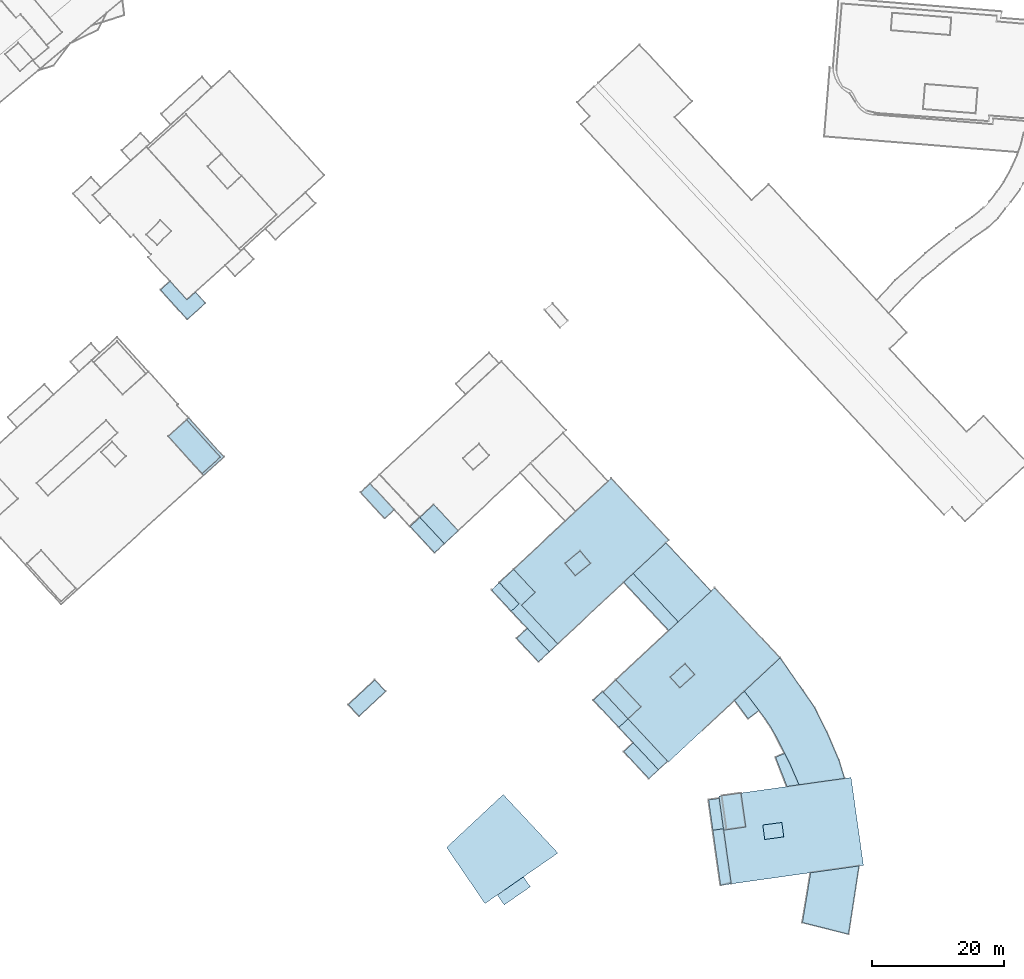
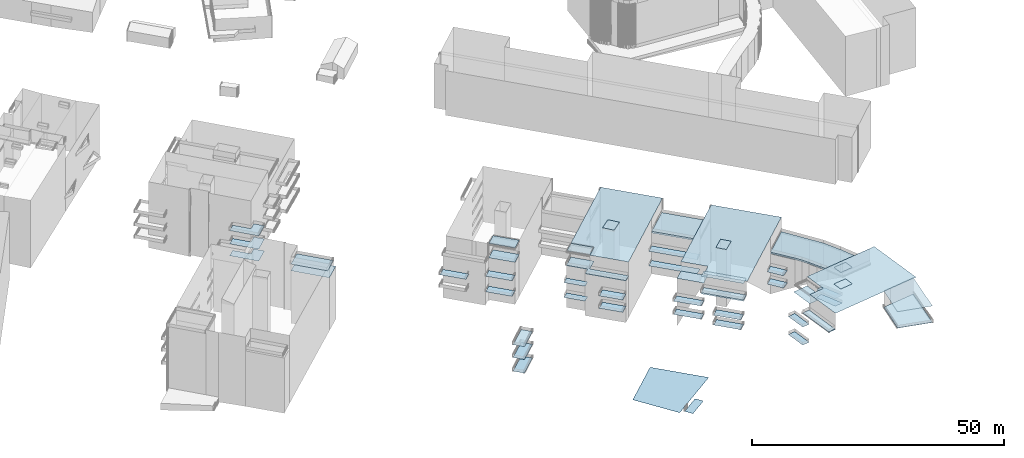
# Not in any storey, part 127 of 136: 105 roofs.
"""IFC4 building model written with IfcOpenShell, lengths in metres."""

from ifc_helpers import new_model, entity, si_unit, converted_unit, frame, origin, place, context, subcontext, project, spatial, face_set, surface_model, element, save


model = new_model("IFC4")

# Units and contexts
model_context = context("Model", 3, precision=1e-05, world=origin())
body_context = subcontext(model_context, "Body", "Model", "MODEL_VIEW")
ifc_project = project(units=[converted_unit("PLANEANGLEUNIT", "DEGREE", entity("IfcRatioMeasure", 0.0174532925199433), si_unit("PLANEANGLEUNIT", "RADIAN"), dimensions=[0, 0, 0, 0, 0, 0, 0]), si_unit("AREAUNIT", "SQUARE_METRE"), si_unit("LENGTHUNIT", "METRE")], contexts=[model_context])

# Site, building
site_placement = place(None, origin())
site = spatial("IfcSite", under=ifc_project, at=site_placement, Name="_site")
building_1_placement = place(site_placement, origin())
building_1 = spatial("IfcBuilding", under=site, at=building_1_placement, Name="_building")

# Roofs
roof_1_placement = place(building_1_placement, origin())
element("IfcRoof", 1, at=roof_1_placement, inside=building_1, Name="Roof", PredefinedType="NOTDEFINED", context=body_context, shape_type="SurfaceModel", body=[
    surface_model("IfcFaceBasedSurfaceModel", [(144.0, -39.33, 48.29), (142.61, -40.63, 48.29), (148.62, -47.07, 48.29), (150.01, -45.77, 48.29)], [face_set([[[0, 1, 2, 3]]])]),
])
roof_2_placement = place(building_1_placement, origin())
element("IfcRoof", 2, at=roof_2_placement, inside=building_1, Name="Roof", PredefinedType="NOTDEFINED", context=body_context, shape_type="SurfaceModel", body=[
    surface_model("IfcFaceBasedSurfaceModel", [(124.14, -66.09, 42.86), (125.22, -65.34, 42.86), (128.11, -63.34, 42.86), (133.34, -59.72, 42.86), (125.03, -50.83, 42.86), (116.43, -58.87, 42.86), (122.26, -67.399, 42.86)], [face_set([[[0, 1, 2, 3, 4, 5, 6]]])]),
])
for number, where, name in (
    (3, (0.0, 0.0, 0.0), "Roof"),
    (4, (0.0, 0.0, 0.0), "Roof"),
):
    element("IfcRoof", number, at=place(building_1_placement, frame(where)), inside=building_1, Name=name, PredefinedType="NOTDEFINED", context=body_context, shape_type="SurfaceModel", body=[
        surface_model("IfcFaceBasedSurfaceModel", [(161.68, -35.13, 44.99), (160.18, -36.52, 44.99), (162.24, -39.3, 44.99), (163.89, -38.06, 44.99)], [face_set([[[0, 1, 2, 3]]])]),
    ])
for number, where, name in (
    (5, (0.0, 0.0, 0.0), "Roof"),
    (6, (0.0, 0.0, 0.0), "Roof"),
):
    element("IfcRoof", number, at=place(building_1_placement, frame(where)), inside=building_1, Name=name, PredefinedType="NOTDEFINED", context=body_context, shape_type="SurfaceModel", body=[
        surface_model("IfcFaceBasedSurfaceModel", [(144.0, -39.33, 42.17), (140.13, -35.18, 42.17), (138.73, -36.479, 42.17), (142.61, -40.63, 42.17)], [face_set([[[0, 1, 2, 3]]])]),
    ])
for number, where, name in (
    (7, (0.0, 0.0, 0.0), "Roof"),
    (8, (0.0, 0.0, 0.0), "Roof"),
):
    element("IfcRoof", number, at=place(building_1_placement, frame(where)), inside=building_1, Name=name, PredefinedType="NOTDEFINED", context=body_context, shape_type="SurfaceModel", body=[
        surface_model("IfcFaceBasedSurfaceModel", [(148.62, -47.07, 42.74), (144.79, -42.97, 42.74), (143.35, -44.31, 42.74), (147.18, -48.42, 42.74)], [face_set([[[0, 1, 2, 3]]])]),
    ])
for number, where, name in (
    (9, (0.0, 0.0, 0.0), "Roof"),
    (10, (0.0, 0.0, 0.0), "Roof"),
):
    element("IfcRoof", number, at=place(building_1_placement, frame(where)), inside=building_1, Name=name, PredefinedType="NOTDEFINED", context=body_context, shape_type="SurfaceModel", body=[
        surface_model("IfcFaceBasedSurfaceModel", [(124.45, -18.64, 41.54), (123.26, -19.75, 41.54), (126.26, -22.96, 41.54), (127.44, -21.86, 41.54)], [face_set([[[0, 1, 2, 3]]])]),
    ])
for number, where, name in (
    (11, (0.0, 0.0, 0.0), "Roof"),
    (12, (0.0, 0.0, 0.0), "Roof"),
):
    element("IfcRoof", number, at=place(building_1_placement, frame(where)), inside=building_1, Name=name, PredefinedType="NOTDEFINED", context=body_context, shape_type="SurfaceModel", body=[
        surface_model("IfcFaceBasedSurfaceModel", [(169.98, -49.36, 41.78), (168.54, -46.04, 41.78), (167.8, -44.58, 41.78), (166.41, -45.18, 41.78), (168.15, -49.62, 41.78)], [face_set([[[0, 1, 2, 3, 4]]])]),
    ])
for number, where, name in (
    (13, (0.0, 0.0, 0.0), "Roof"),
    (14, (0.0, 0.0, 0.0), "Roof"),
):
    element("IfcRoof", number, at=place(building_1_placement, frame(where)), inside=building_1, Name=name, PredefinedType="NOTDEFINED", context=body_context, shape_type="SurfaceModel", body=[
        surface_model("IfcFaceBasedSurfaceModel", [(161.68, -35.13, 42.01), (160.18, -36.52, 42.01), (162.24, -39.3, 42.01), (163.89, -38.06, 42.01)], [face_set([[[0, 1, 2, 3]]])]),
    ])
for number, where, name in (
    (15, (0.0, 0.0, 0.0), "Roof"),
    (16, (0.0, 0.0, 0.0), "Roof"),
):
    element("IfcRoof", number, at=place(building_1_placement, frame(where)), inside=building_1, Name=name, PredefinedType="NOTDEFINED", context=body_context, shape_type="SurfaceModel", body=[
        surface_model("IfcFaceBasedSurfaceModel", [(104.82, -3.59, 45.01), (103.37, -4.939, 45.01), (107.05, -8.89, 45.01), (108.5, -7.54, 45.01)], [face_set([[[0, 1, 2, 3]]])]),
    ])
roof_3_placement = place(building_1_placement, origin())
element("IfcRoof", 17, at=roof_3_placement, inside=building_1, Name="Roof", PredefinedType="NOTDEFINED", context=body_context, shape_type="SurfaceModel", body=[
    surface_model("IfcFaceBasedSurfaceModel", [(140.97, -3.229, 51.59), (136.06, -7.81, 51.59), (126.62, -16.62, 51.59), (129.9, -20.13, 51.59), (127.82, -22.06, 51.59), (133.31, -27.95, 51.59), (144.77, -17.25, 51.59), (149.76, -12.6, 51.59), (150.21, -12.18, 51.59), (141.45, -2.78, 51.59)], [face_set([[[0, 1, 2, 3, 4, 5, 6, 7, 8, 9]]])]),
])
for number, where, name in (
    (18, (0.0, 0.0, 0.0), "Roof"),
    (19, (0.0, 0.0, 0.0), "Roof"),
):
    element("IfcRoof", number, at=place(building_1_placement, frame(where)), inside=building_1, Name=name, PredefinedType="NOTDEFINED", context=body_context, shape_type="SurfaceModel", body=[
        surface_model("IfcFaceBasedSurfaceModel", [(169.98, -49.36, 43.64), (168.54, -46.04, 43.64), (167.8, -44.58, 43.64), (166.41, -45.18, 43.64), (168.15, -49.62, 43.64)], [face_set([[[0, 1, 2, 3, 4]]])]),
    ])
for number, where, name in (
    (20, (0.0, 0.0, 0.0), "Roof"),
    (21, (0.0, 0.0, 0.0), "Roof"),
):
    element("IfcRoof", number, at=place(building_1_placement, frame(where)), inside=building_1, Name=name, PredefinedType="NOTDEFINED", context=body_context, shape_type="SurfaceModel", body=[
        surface_model("IfcFaceBasedSurfaceModel", [(148.62, -47.07, 45.12), (144.79, -42.97, 45.12), (143.35, -44.31, 45.12), (147.18, -48.42, 45.12)], [face_set([[[0, 1, 2, 3]]])]),
    ])
for number, where, name in (
    (22, (0.0, 0.0, 0.0), "Roof"),
    (23, (0.0, 0.0, 0.0), "Roof"),
):
    element("IfcRoof", number, at=place(building_1_placement, frame(where)), inside=building_1, Name=name, PredefinedType="NOTDEFINED", context=body_context, shape_type="SurfaceModel", body=[
        surface_model("IfcFaceBasedSurfaceModel", [(105.53, -33.43, 45.18), (101.51, -37.17, 45.18), (103.13, -38.91, 45.18), (107.15, -35.16, 45.18)], [face_set([[[0, 1, 2, 3]]])]),
    ])
for number, where, name in (
    (24, (0.0, 0.0, 0.0), "Roof"),
    (25, (0.0, 0.0, 0.0), "Roof"),
):
    element("IfcRoof", number, at=place(building_1_placement, frame(where)), inside=building_1, Name=name, PredefinedType="NOTDEFINED", context=body_context, shape_type="SurfaceModel", body=[
        surface_model("IfcFaceBasedSurfaceModel", [(105.53, -33.43, 41.88), (101.51, -37.17, 41.88), (103.13, -38.91, 41.88), (107.15, -35.16, 41.88)], [face_set([[[0, 1, 2, 3]]])]),
    ])
for number, where, name in (
    (26, (0.0, 0.0, 0.0), "Roof"),
    (27, (0.0, 0.0, 0.0), "Roof"),
):
    element("IfcRoof", number, at=place(building_1_placement, frame(where)), inside=building_1, Name=name, PredefinedType="NOTDEFINED", context=body_context, shape_type="SurfaceModel", body=[
        surface_model("IfcFaceBasedSurfaceModel", [(158.5, -56.03, 40.37), (157.85, -51.41, 40.37), (156.23, -51.64, 40.37), (156.88, -56.26, 40.37)], [face_set([[[0, 1, 2, 3]]])]),
    ])
for number, where, name in (
    (28, (0.0, 0.0, 0.0), "Roof"),
    (29, (0.0, 0.0, 0.0), "Roof"),
):
    element("IfcRoof", number, at=place(building_1_placement, frame(where)), inside=building_1, Name=name, PredefinedType="NOTDEFINED", context=body_context, shape_type="SurfaceModel", body=[
        surface_model("IfcFaceBasedSurfaceModel", [(112.38, -8.729, 45.18), (110.9, -10.11, 45.18), (114.61, -14.09, 45.18), (116.09, -12.71, 45.18)], [face_set([[[0, 1, 2, 3]]])]),
    ])
for number, where, name in (
    (30, (0.0, 0.0, 0.0), "Roof"),
    (31, (0.0, 0.0, 0.0), "Roof"),
):
    element("IfcRoof", number, at=place(building_1_placement, frame(where)), inside=building_1, Name=name, PredefinedType="NOTDEFINED", context=body_context, shape_type="SurfaceModel", body=[
        surface_model("IfcFaceBasedSurfaceModel", [(105.53, -33.43, 48.27), (101.51, -37.17, 48.27), (103.13, -38.91, 48.27), (107.15, -35.16, 48.27)], [face_set([[[0, 1, 2, 3]]])]),
    ])
for number, where, name in (
    (32, (0.0, 0.0, 0.0), "Roof"),
    (33, (0.0, 0.0, 0.0), "Roof"),
):
    element("IfcRoof", number, at=place(building_1_placement, frame(where)), inside=building_1, Name=name, PredefinedType="NOTDEFINED", context=body_context, shape_type="SurfaceModel", body=[
        surface_model("IfcFaceBasedSurfaceModel", [(128.7, -25.58, 42.04), (127.08, -27.09, 42.04), (130.41, -30.66, 42.04), (132.03, -29.149, 42.04)], [face_set([[[0, 1, 2, 3]]])]),
    ])
for number, where, name in (
    (34, (0.0, 0.0, 0.0), "Roof"),
    (35, (0.0, 0.0, 0.0), "Roof"),
):
    element("IfcRoof", number, at=place(building_1_placement, frame(where)), inside=building_1, Name=name, PredefinedType="NOTDEFINED", context=body_context, shape_type="SurfaceModel", body=[
        surface_model("IfcFaceBasedSurfaceModel", [(158.5, -56.03, 44.74), (157.85, -51.41, 44.74), (156.23, -51.64, 44.74), (156.88, -56.26, 44.74)], [face_set([[[0, 1, 2, 3]]])]),
    ])
roof_4_placement = place(building_1_placement, origin())
element("IfcRoof", 36, at=roof_4_placement, inside=building_1, Name="Roof", PredefinedType="NOTDEFINED", context=body_context, shape_type="SurfaceModel", body=[
    surface_model("IfcFaceBasedSurfaceModel", [(158.5, -56.03, 49.79), (158.53, -56.24, 49.79), (161.89, -55.76, 49.79), (161.16, -50.6, 49.79), (157.81, -51.07, 49.79)], [face_set([[[0, 1, 2, 3, 4]]])]),
])
for number, where, name in (
    (37, (0.0, 0.0, 0.0), "Roof"),
    (38, (0.0, 0.0, 0.0), "Roof"),
):
    element("IfcRoof", number, at=place(building_1_placement, frame(where)), inside=building_1, Name=name, PredefinedType="NOTDEFINED", context=body_context, shape_type="SurfaceModel", body=[
        surface_model("IfcFaceBasedSurfaceModel", [(144.77, -17.25, 41.46), (143.35, -18.57, 41.46), (150.2, -25.91, 41.46), (151.62, -24.59, 41.46)], [face_set([[[0, 1, 2, 3]]])]),
    ])
for number, where, name in (
    (39, (0.0, 0.0, 0.0), "Roof"),
    (40, (0.0, 0.0, 0.0), "Roof"),
):
    element("IfcRoof", number, at=place(building_1_placement, frame(where)), inside=building_1, Name=name, PredefinedType="NOTDEFINED", context=body_context, shape_type="SurfaceModel", body=[
        surface_model("IfcFaceBasedSurfaceModel", [(112.38, -8.729, 41.4), (110.9, -10.11, 41.4), (114.61, -14.09, 41.4), (116.09, -12.71, 41.4)], [face_set([[[0, 1, 2, 3]]])]),
    ])
roof_5_placement = place(building_1_placement, origin())
element("IfcRoof", 41, at=roof_5_placement, inside=building_1, Name="Roof", PredefinedType="NOTDEFINED", context=body_context, shape_type="SurfaceModel", body=[
    surface_model("IfcFaceBasedSurfaceModel", [(144.0, -39.33, 49.64), (145.97, -37.49, 49.64), (142.16, -33.42, 49.64), (140.2, -35.25, 49.64)], [face_set([[[0, 1, 2, 3]]])]),
])
for number, where, name in (
    (42, (0.0, 0.0, 0.0), "Roof"),
    (43, (0.0, 0.0, 0.0), "Roof"),
):
    element("IfcRoof", number, at=place(building_1_placement, frame(where)), inside=building_1, Name=name, PredefinedType="NOTDEFINED", context=body_context, shape_type="SurfaceModel", body=[
        surface_model("IfcFaceBasedSurfaceModel", [(124.45, -18.64, 45.14), (123.26, -19.75, 45.14), (126.26, -22.96, 45.14), (127.44, -21.86, 45.14)], [face_set([[[0, 1, 2, 3]]])]),
    ])
for number, where, name in (
    (44, (0.0, 0.0, 0.0), "Roof"),
    (45, (0.0, 0.0, 0.0), "Roof"),
):
    element("IfcRoof", number, at=place(building_1_placement, frame(where)), inside=building_1, Name=name, PredefinedType="NOTDEFINED", context=body_context, shape_type="SurfaceModel", body=[
        surface_model("IfcFaceBasedSurfaceModel", [(128.7, -25.58, 45.03), (127.08, -27.09, 45.03), (130.41, -30.66, 45.03), (132.03, -29.149, 45.03)], [face_set([[[0, 1, 2, 3]]])]),
    ])
for number, where, name in (
    (46, (0.0, 0.0, 0.0), "Roof"),
    (47, (0.0, 0.0, 0.0), "Roof"),
):
    element("IfcRoof", number, at=place(building_1_placement, frame(where)), inside=building_1, Name=name, PredefinedType="NOTDEFINED", context=body_context, shape_type="SurfaceModel", body=[
        surface_model("IfcFaceBasedSurfaceModel", [(144.0, -39.33, 45.37), (140.13, -35.18, 45.37), (138.73, -36.479, 45.37), (142.61, -40.63, 45.37)], [face_set([[[0, 1, 2, 3]]])]),
    ])
for number, where, name in (
    (48, (0.0, 0.0, 0.0), "Roof"),
    (49, (0.0, 0.0, 0.0), "Roof"),
):
    element("IfcRoof", number, at=place(building_1_placement, frame(where)), inside=building_1, Name=name, PredefinedType="NOTDEFINED", context=body_context, shape_type="SurfaceModel", body=[
        surface_model("IfcFaceBasedSurfaceModel", [(144.77, -17.25, 44.99), (143.35, -18.57, 44.99), (150.2, -25.91, 44.99), (151.62, -24.59, 44.99)], [face_set([[[0, 1, 2, 3]]])]),
    ])
roof_6_placement = place(building_1_placement, origin())
element("IfcRoof", 50, at=roof_6_placement, inside=building_1, Name="Roof", PredefinedType="NOTDEFINED", context=body_context, shape_type="SurfaceModel", body=[
    surface_model("IfcFaceBasedSurfaceModel", [(114.48, -6.77, 48.29), (112.38, -8.729, 48.29), (116.09, -12.71, 48.29), (118.19, -10.75, 48.29)], [face_set([[[0, 1, 2, 3]]])]),
])
roof_7_placement = place(building_1_placement, origin())
element("IfcRoof", 51, at=roof_7_placement, inside=building_1, Name="Roof", PredefinedType="NOTDEFINED", context=body_context, shape_type="SurfaceModel", body=[
    surface_model("IfcFaceBasedSurfaceModel", [(133.31, -27.95, 48.26), (127.82, -22.06, 48.26), (129.9, -20.13, 48.26), (126.62, -16.62, 48.26), (124.45, -18.64, 48.26), (127.44, -21.86, 48.26), (126.26, -22.96, 48.26), (132.03, -29.149, 48.26)], [face_set([[[0, 1, 2, 3, 4, 5, 6, 7]]])]),
])
roof_8_placement = place(building_1_placement, origin())
element("IfcRoof", 52, at=roof_8_placement, inside=building_1, Name="Roof", PredefinedType="NOTDEFINED", context=body_context, shape_type="SurfaceModel", body=[
    surface_model("IfcFaceBasedSurfaceModel", [(128.11, -63.34, 41.75), (124.14, -66.09, 41.75), (125.18, -67.6, 41.75), (129.15, -64.85, 41.75)], [face_set([[[0, 1, 2, 3]]])]),
])
roof_9_placement = place(building_1_placement, origin())
element("IfcRoof", 53, at=roof_9_placement, inside=building_1, Name="Roof", PredefinedType="NOTDEFINED", context=body_context, shape_type="SurfaceModel", body=[
    surface_model("IfcFaceBasedSurfaceModel", [(142.16, -33.42, 51.89), (145.97, -37.49, 51.89), (144.0, -39.33, 51.89), (150.01, -45.77, 51.89), (150.13, -45.899, 51.89), (161.68, -35.13, 51.89), (167.11, -30.07, 51.89), (157.17, -19.42, 51.89), (156.61, -19.939, 51.89), (151.62, -24.59, 51.89)], [face_set([[[0, 1, 2, 3, 4, 5, 6, 7, 8, 9]]])]),
])
roof_10_placement = place(building_1_placement, origin())
element("IfcRoof", 54, at=roof_10_placement, inside=building_1, Name="Roof", PredefinedType="NOTDEFINED", context=body_context, shape_type="SurfaceModel", body=[
    surface_model("IfcFaceBasedSurfaceModel", [(161.16, -50.6, 52.04), (161.89, -55.76, 52.04), (158.53, -56.24, 52.04), (159.68, -64.41, 52.04), (171.74, -62.71, 52.04), (173.4, -62.479, 52.04), (179.09, -61.68, 52.04), (179.76, -61.58, 52.04), (177.88, -48.25, 52.04), (176.89, -48.39, 52.04), (169.98, -49.36, 52.04)], [face_set([[[0, 1, 2, 3, 4, 5, 6, 7, 8, 9, 10]]])]),
])
roof_11_placement = place(building_1_placement, origin())
element("IfcRoof", 55, at=roof_11_placement, inside=building_1, Name="Roof", PredefinedType="NOTDEFINED", context=body_context, shape_type="SurfaceModel", body=[
    surface_model("IfcFaceBasedSurfaceModel", [(144.77, -17.25, 48.51), (151.62, -24.59, 48.51), (156.61, -19.939, 48.51), (149.76, -12.6, 48.51)], [face_set([[[0, 1, 2, 3]]])]),
])
roof_12_placement = place(building_1_placement, origin())
element("IfcRoof", 56, at=roof_12_placement, inside=building_1, Name="Roof", PredefinedType="NOTDEFINED", context=body_context, shape_type="SurfaceModel", body=[
    surface_model("IfcFaceBasedSurfaceModel", [(156.61, -19.939, 48.12), (149.76, -12.6, 48.12), (144.77, -17.25, 48.12), (151.62, -24.59, 48.12)], [face_set([[[0, 1, 2, 3]]])]),
])
roof_13_placement = place(building_1_placement, origin())
element("IfcRoof", 57, at=roof_13_placement, inside=building_1, Name="Roof", PredefinedType="NOTDEFINED", context=body_context, shape_type="SurfaceModel", body=[
    surface_model("IfcFaceBasedSurfaceModel", [(176.89, -48.39, 48.04), (176.07, -45.7, 48.04), (174.2, -41.33, 48.04), (172.37, -37.66, 48.04), (170.61, -35.09, 48.04), (167.11, -30.07, 48.04), (161.68, -35.13, 48.04), (164.85, -39.33, 48.04), (165.71, -40.63, 48.04), (166.51, -42.04, 48.04), (167.36, -43.72, 48.04), (168.54, -46.04, 48.04), (169.98, -49.36, 48.04)], [face_set([[[0, 1, 2, 3, 4, 5, 6, 7, 8, 9, 10, 11, 12]]])]),
])

# Building
building_2_placement = place(site_placement, origin())
building_2 = spatial("IfcBuilding", under=site, at=building_2_placement, Name="_building")

# Roofs
roof_14_placement = place(building_2_placement, origin())
element("IfcRoof", 58, at=roof_14_placement, inside=building_2, Name="Roof", PredefinedType="NOTDEFINED", context=body_context, shape_type="SurfaceModel", body=[
    surface_model("IfcFaceBasedSurfaceModel", [(152.68, -30.95, 52.15), (150.4, -32.979, 52.15), (151.88, -34.63, 52.15), (154.15, -32.6, 52.15)], [face_set([[[0, 1, 2, 3]]])]),
])
roof_15_placement = place(building_2_placement, origin())
element("IfcRoof", 59, at=roof_15_placement, inside=building_2, Name="Roof", PredefinedType="NOTDEFINED", context=body_context, shape_type="SurfaceModel", body=[
    surface_model("IfcFaceBasedSurfaceModel", [(142.16, -33.42, 51.89), (145.97, -37.49, 51.89), (144.0, -39.33, 51.89), (150.01, -45.77, 51.89), (150.13, -45.899, 51.89), (161.68, -35.13, 51.89), (167.11, -30.07, 51.89), (157.17, -19.42, 51.89), (156.61, -19.939, 51.89), (151.62, -24.59, 51.89)], [face_set([[[0, 1, 2, 3, 4, 5, 6, 7, 8, 9]]])]),
])
for number, where, name in (
    (60, (0.0, 0.0, 0.0), "Roof"),
    (61, (0.0, 0.0, 0.0), "Roof"),
):
    element("IfcRoof", number, at=place(building_2_placement, frame(where)), inside=building_2, Name=name, PredefinedType="NOTDEFINED", context=body_context, shape_type="SurfaceModel", body=[
        surface_model("IfcFaceBasedSurfaceModel", [(142.61, -40.63, 48.58), (148.62, -47.07, 48.58), (150.01, -45.77, 48.58), (144.0, -39.33, 48.58)], [face_set([[[0, 1, 2, 3]]])]),
    ])
for number, where, name in (
    (62, (0.0, 0.0, 0.0), "Roof"),
    (63, (0.0, 0.0, 0.0), "Roof"),
):
    element("IfcRoof", number, at=place(building_2_placement, frame(where)), inside=building_2, Name=name, PredefinedType="NOTDEFINED", context=body_context, shape_type="SurfaceModel", body=[
        surface_model("IfcFaceBasedSurfaceModel", [(169.98, -49.36, 48.41), (176.89, -48.39, 48.41), (176.07, -45.7, 48.41), (174.2, -41.33, 48.41), (172.37, -37.66, 48.41), (167.11, -30.07, 48.41), (161.68, -35.13, 48.41), (164.85, -39.33, 48.41), (165.71, -40.63, 48.41), (166.51, -42.04, 48.41), (167.8, -44.58, 48.41), (168.42, -45.8, 48.41), (168.54, -46.04, 48.41)], [face_set([[[0, 1, 2, 3, 4, 5, 6, 7, 8, 9, 10, 11, 12]]])]),
    ])
roof_16_placement = place(building_2_placement, origin())
element("IfcRoof", 64, at=roof_16_placement, inside=building_2, Name="Roof", PredefinedType="NOTDEFINED", context=body_context, shape_type="SurfaceModel", body=[
    surface_model("IfcFaceBasedSurfaceModel", [(142.61, -40.63, 52.58), (148.62, -47.07, 52.58), (150.01, -45.77, 52.58), (144.0, -39.33, 52.58)], [face_set([[[0, 1, 2, 3]]])]),
])
roof_17_placement = place(building_2_placement, origin())
element("IfcRoof", 65, at=roof_17_placement, inside=building_2, Name="Roof", PredefinedType="NOTDEFINED", context=body_context, shape_type="SurfaceModel", body=[
    surface_model("IfcFaceBasedSurfaceModel", [(176.89, -48.39, 48.04), (176.07, -45.7, 48.04), (174.2, -41.33, 48.04), (172.37, -37.66, 48.04), (170.61, -35.09, 48.04), (167.11, -30.07, 48.04), (161.68, -35.13, 48.04), (164.85, -39.33, 48.04), (165.71, -40.63, 48.04), (166.51, -42.04, 48.04), (167.36, -43.72, 48.04), (168.54, -46.04, 48.04), (169.98, -49.36, 48.04)], [face_set([[[0, 1, 2, 3, 4, 5, 6, 7, 8, 9, 10, 11, 12]]])]),
])
roof_18_placement = place(building_2_placement, origin())
element("IfcRoof", 66, at=roof_18_placement, inside=building_2, Name="Roof", PredefinedType="NOTDEFINED", context=body_context, shape_type="SurfaceModel", body=[
    surface_model("IfcFaceBasedSurfaceModel", [(152.68, -30.95, 52.15), (150.4, -32.979, 52.15), (151.88, -34.63, 52.15), (154.15, -32.6, 52.15)], [face_set([[[0, 1, 2, 3]]])]),
])

# Building
building_3_placement = place(site_placement, origin())
building_3 = spatial("IfcBuilding", under=site, at=building_3_placement, Name="_building")

# Roofs
roof_19_placement = place(building_3_placement, origin())
element("IfcRoof", 67, at=roof_19_placement, inside=building_3, Name="Roof", PredefinedType="NOTDEFINED", context=body_context, shape_type="SurfaceModel", body=[
    surface_model("IfcFaceBasedSurfaceModel", [(114.48, -6.77, 48.29), (112.38, -8.729, 48.29), (116.09, -12.71, 48.29), (118.19, -10.75, 48.29)], [face_set([[[0, 1, 2, 3]]])]),
])
roof_20_placement = place(building_3_placement, origin())
element("IfcRoof", 68, at=roof_20_placement, inside=building_3, Name="Roof", PredefinedType="NOTDEFINED", context=body_context, shape_type="SurfaceModel", body=[
    surface_model("IfcFaceBasedSurfaceModel", [(114.48, -6.77, 51.74), (112.4, -8.71, 51.74), (116.11, -12.689, 51.74), (118.19, -10.75, 51.74)], [face_set([[[0, 1, 2, 3]]])]),
])

# Building
building_4_placement = place(site_placement, origin())
building_4 = spatial("IfcBuilding", under=site, at=building_4_placement, Name="_building")

# Roof
roof_21_placement = place(building_4_placement, origin())
element("IfcRoof", 69, at=roof_21_placement, inside=building_4, Name="Roof", PredefinedType="NOTDEFINED", context=body_context, shape_type="SurfaceModel", body=[
    surface_model("IfcFaceBasedSurfaceModel", [(144.0, -39.33, 49.64), (145.97, -37.49, 49.64), (142.16, -33.42, 49.64), (140.2, -35.25, 49.64)], [face_set([[[0, 1, 2, 3]]])]),
])

# Building
building_5_placement = place(site_placement, origin())
building_5 = spatial("IfcBuilding", under=site, at=building_5_placement, Name="_building")

# Roofs
roof_22_placement = place(building_5_placement, origin())
element("IfcRoof", 70, at=roof_22_placement, inside=building_5, Name="Roof", PredefinedType="NOTDEFINED", context=body_context, shape_type="SurfaceModel", body=[
    surface_model("IfcFaceBasedSurfaceModel", [(126.62, -16.62, 51.59), (124.55, -18.56, 51.59), (127.82, -22.06, 51.59), (129.9, -20.13, 51.59)], [face_set([[[0, 1, 2, 3]]])]),
])
roof_23_placement = place(building_5_placement, origin())
element("IfcRoof", 71, at=roof_23_placement, inside=building_5, Name="Roof", PredefinedType="NOTDEFINED", context=body_context, shape_type="SurfaceModel", body=[
    surface_model("IfcFaceBasedSurfaceModel", [(140.97, -3.229, 51.59), (136.06, -7.81, 51.59), (126.62, -16.62, 51.59), (129.9, -20.13, 51.59), (127.82, -22.06, 51.59), (133.31, -27.95, 51.59), (144.77, -17.25, 51.59), (149.76, -12.6, 51.59), (150.21, -12.18, 51.59), (141.45, -2.78, 51.59)], [face_set([[[0, 1, 2, 3, 4, 5, 6, 7, 8, 9]]])]),
])
for number, where, name in (
    (72, (0.0, 0.0, 0.0), "Roof"),
    (73, (0.0, 0.0, 0.0), "Roof"),
):
    element("IfcRoof", number, at=place(building_5_placement, frame(where)), inside=building_5, Name=name, PredefinedType="NOTDEFINED", context=body_context, shape_type="SurfaceModel", body=[
        surface_model("IfcFaceBasedSurfaceModel", [(136.74, -13.8, 52.06), (134.44, -15.689, 52.06), (136.0, -17.59, 52.06), (138.3, -15.7, 52.06)], [face_set([[[0, 1, 2, 3]]])]),
    ])
roof_24_placement = place(building_5_placement, origin())
element("IfcRoof", 74, at=roof_24_placement, inside=building_5, Name="Roof", PredefinedType="NOTDEFINED", context=body_context, shape_type="SurfaceModel", body=[
    surface_model("IfcFaceBasedSurfaceModel", [(133.31, -27.95, 48.26), (127.82, -22.06, 48.26), (129.9, -20.13, 48.26), (126.62, -16.62, 48.26), (124.45, -18.64, 48.26), (127.44, -21.86, 48.26), (126.26, -22.96, 48.26), (132.03, -29.149, 48.26)], [face_set([[[0, 1, 2, 3, 4, 5, 6, 7]]])]),
])
roof_25_placement = place(building_5_placement, origin())
element("IfcRoof", 75, at=roof_25_placement, inside=building_5, Name="Roof", PredefinedType="NOTDEFINED", context=body_context, shape_type="SurfaceModel", body=[
    surface_model("IfcFaceBasedSurfaceModel", [(144.77, -17.25, 48.51), (151.62, -24.59, 48.51), (156.61, -19.939, 48.51), (149.76, -12.6, 48.51)], [face_set([[[0, 1, 2, 3]]])]),
])
roof_26_placement = place(building_5_placement, origin())
element("IfcRoof", 76, at=roof_26_placement, inside=building_5, Name="Roof", PredefinedType="NOTDEFINED", context=body_context, shape_type="SurfaceModel", body=[
    surface_model("IfcFaceBasedSurfaceModel", [(156.61, -19.939, 48.12), (149.76, -12.6, 48.12), (144.77, -17.25, 48.12), (151.62, -24.59, 48.12)], [face_set([[[0, 1, 2, 3]]])]),
])

# Building
building_6_placement = place(site_placement, origin())
building_6 = spatial("IfcBuilding", under=site, at=building_6_placement, Name="_building")

# Roofs
for number, where, name in (
    (77, (0.0, 0.0, 0.0), "Roof"),
    (78, (0.0, 0.0, 0.0), "Roof"),
):
    element("IfcRoof", number, at=place(building_6_placement, frame(where)), inside=building_6, Name=name, PredefinedType="NOTDEFINED", context=body_context, shape_type="SurfaceModel", body=[
        surface_model("IfcFaceBasedSurfaceModel", [(126.62, -16.62, 48.11), (124.45, -18.64, 48.11), (127.44, -21.86, 48.11), (126.26, -22.96, 48.11), (132.03, -29.149, 48.11), (133.31, -27.95, 48.11), (127.82, -22.06, 48.11), (129.89, -20.12, 48.11)], [face_set([[[0, 1, 2, 3, 4, 5, 6, 7]]])]),
    ])

# Building
building_7_placement = place(site_placement, origin())
building_7 = spatial("IfcBuilding", under=site, at=building_7_placement, Name="_building")

# Roofs
roof_27_placement = place(building_7_placement, origin())
element("IfcRoof", 79, at=roof_27_placement, inside=building_7, Name="Roof", PredefinedType="NOTDEFINED", context=body_context, shape_type="SurfaceModel", body=[
    surface_model("IfcFaceBasedSurfaceModel", [(114.48, -6.77, 51.74), (112.4, -8.71, 51.74), (116.11, -12.689, 51.74), (118.19, -10.75, 51.74)], [face_set([[[0, 1, 2, 3]]])]),
])
roof_28_placement = place(building_7_placement, origin())
element("IfcRoof", 80, at=roof_28_placement, inside=building_7, Name="Roof", PredefinedType="NOTDEFINED", context=body_context, shape_type="SurfaceModel", body=[
    surface_model("IfcFaceBasedSurfaceModel", [(112.38, -8.729, 48.29), (116.09, -12.71, 48.29), (118.19, -10.75, 48.29), (114.48, -6.77, 48.29)], [face_set([[[0, 1, 2, 3]]])]),
])

# Building
building_8_placement = place(site_placement, origin())
building_8 = spatial("IfcBuilding", under=site, at=building_8_placement, Name="_building")

# Roofs
for number, where, name in (
    (81, (0.0, 0.0, 0.0), "Roof"),
    (82, (0.0, 0.0, 0.0), "Roof"),
):
    element("IfcRoof", number, at=place(building_8_placement, frame(where)), inside=building_8, Name=name, PredefinedType="NOTDEFINED", context=body_context, shape_type="SurfaceModel", body=[
        surface_model("IfcFaceBasedSurfaceModel", [(78.28, 25.5, 41.6), (76.98, 24.33, 41.6), (74.42, 27.16, 41.6), (72.97, 25.851, 41.6), (77.04, 21.36, 41.6), (79.78, 23.84, 41.6)], [face_set([[[0, 1, 2, 3, 4, 5]]])]),
    ])
for number, where, name in (
    (83, (0.0, 0.0, 0.0), "Roof"),
    (84, (0.0, 0.0, 0.0), "Roof"),
):
    element("IfcRoof", number, at=place(building_8_placement, frame(where)), inside=building_8, Name=name, PredefinedType="NOTDEFINED", context=body_context, shape_type="SurfaceModel", body=[
        surface_model("IfcFaceBasedSurfaceModel", [(78.28, 25.5, 47.7), (76.98, 24.33, 47.7), (74.42, 27.16, 47.7), (72.97, 25.851, 47.7), (77.04, 21.36, 47.7), (79.78, 23.84, 47.7)], [face_set([[[0, 1, 2, 3, 4, 5]]])]),
    ])
for number, where, name in (
    (85, (0.0, 0.0, 0.0), "Roof"),
    (86, (0.0, 0.0, 0.0), "Roof"),
):
    element("IfcRoof", number, at=place(building_8_placement, frame(where)), inside=building_8, Name=name, PredefinedType="NOTDEFINED", context=body_context, shape_type="SurfaceModel", body=[
        surface_model("IfcFaceBasedSurfaceModel", [(78.28, 25.5, 44.48), (76.98, 24.33, 44.48), (74.42, 27.16, 44.48), (72.97, 25.851, 44.48), (77.04, 21.36, 44.48), (79.78, 23.84, 44.48)], [face_set([[[0, 1, 2, 3, 4, 5]]])]),
    ])

# Building
building_9_placement = place(site_placement, origin())
building_9 = spatial("IfcBuilding", under=site, at=building_9_placement, Name="_building")

# Roofs
for number, where, name in (
    (87, (0.0, 0.0, 0.0), "Roof"),
    (88, (0.0, 0.0, 0.0), "Roof"),
):
    element("IfcRoof", number, at=place(building_9_placement, frame(where)), inside=building_9, Name=name, PredefinedType="NOTDEFINED", context=body_context, shape_type="SurfaceModel", body=[
        surface_model("IfcFaceBasedSurfaceModel", [(77.26, 6.38, 51.06), (74.16, 3.58, 51.06), (79.53, -2.34, 51.06), (82.62, 0.46, 51.06)], [face_set([[[0, 1, 2, 3]]])]),
    ])
for number, where, name in (
    (89, (0.0, 0.0, 0.0), "Roof"),
    (90, (0.0, 0.0, 0.0), "Roof"),
):
    element("IfcRoof", number, at=place(building_9_placement, frame(where)), inside=building_9, Name=name, PredefinedType="NOTDEFINED", context=body_context, shape_type="SurfaceModel", body=[
        surface_model("IfcFaceBasedSurfaceModel", [(82.07, 0.44, 52.67), (76.94, 6.101, 52.67), (74.16, 3.58, 52.67), (79.29, -2.08, 52.67)], [face_set([[[0, 1, 2, 3]]])]),
    ])

# Building
building_10_placement = place(site_placement, origin())
building_10 = spatial("IfcBuilding", under=site, at=building_10_placement, Name="_building")

# Roofs
for number, where, name in (
    (91, (0.0, 0.0, 0.0), "Roof"),
    (92, (0.0, 0.0, 0.0), "Roof"),
):
    element("IfcRoof", number, at=place(building_10_placement, frame(where)), inside=building_10, Name=name, PredefinedType="NOTDEFINED", context=body_context, shape_type="SurfaceModel", body=[
        surface_model("IfcFaceBasedSurfaceModel", [(179.09, -61.68, 48.27), (173.4, -62.479, 48.27), (171.74, -62.71, 48.27), (170.49, -70.29, 48.27), (177.5, -72.06, 48.27)], [face_set([[[0, 1, 2, 3, 4]]])]),
    ])
for number, where, name in (
    (93, (0.0, 0.0, 0.0), "Roof"),
    (94, (0.0, 0.0, 0.0), "Roof"),
):
    element("IfcRoof", number, at=place(building_10_placement, frame(where)), inside=building_10, Name=name, PredefinedType="NOTDEFINED", context=body_context, shape_type="SurfaceModel", body=[
        surface_model("IfcFaceBasedSurfaceModel", [(167.66, -57.27, 52.04), (167.37, -55.08, 52.04), (164.47, -55.46, 52.04), (164.76, -57.66, 52.04)], [face_set([[[0, 1, 2, 3]]])]),
    ])
roof_29_placement = place(building_10_placement, origin())
element("IfcRoof", 95, at=roof_29_placement, inside=building_10, Name="Roof", PredefinedType="NOTDEFINED", context=body_context, shape_type="SurfaceModel", body=[
    surface_model("IfcFaceBasedSurfaceModel", [(158.5, -56.03, 49.79), (158.53, -56.24, 49.79), (161.89, -55.76, 49.79), (161.16, -50.6, 49.79), (157.81, -51.07, 49.79)], [face_set([[[0, 1, 2, 3, 4]]])]),
])
for number, where, name in (
    (96, (0.0, 0.0, 0.0), "Roof"),
    (97, (0.0, 0.0, 0.0), "Roof"),
):
    element("IfcRoof", number, at=place(building_10_placement, frame(where)), inside=building_10, Name=name, PredefinedType="NOTDEFINED", context=body_context, shape_type="SurfaceModel", body=[
        surface_model("IfcFaceBasedSurfaceModel", [(158.5, -56.03, 48.2), (156.88, -56.26, 48.2), (158.06, -64.64, 48.2), (159.65, -64.2, 48.2), (158.53, -56.24, 48.2)], [face_set([[[0, 1, 2, 3, 4]]])]),
    ])
roof_30_placement = place(building_10_placement, origin())
element("IfcRoof", 98, at=roof_30_placement, inside=building_10, Name="Roof", PredefinedType="NOTDEFINED", context=body_context, shape_type="SurfaceModel", body=[
    surface_model("IfcFaceBasedSurfaceModel", [(161.16, -50.6, 52.04), (161.89, -55.76, 52.04), (158.53, -56.24, 52.04), (159.68, -64.41, 52.04), (171.74, -62.71, 52.04), (173.4, -62.479, 52.04), (179.09, -61.68, 52.04), (179.76, -61.58, 52.04), (177.88, -48.25, 52.04), (176.89, -48.39, 52.04), (169.98, -49.36, 52.04)], [face_set([[[0, 1, 2, 3, 4, 5, 6, 7, 8, 9, 10]]])]),
])
for number, where, name in (
    (99, (0.0, 0.0, 0.0), "Roof"),
    (100, (0.0, 0.0, 0.0), "Roof"),
):
    element("IfcRoof", number, at=place(building_10_placement, frame(where)), inside=building_10, Name=name, PredefinedType="NOTDEFINED", context=body_context, shape_type="SurfaceModel", body=[
        surface_model("IfcFaceBasedSurfaceModel", [(179.09, -61.68, 48.2), (171.74, -62.71, 48.2), (170.49, -70.29, 48.2), (177.5, -72.06, 48.2)], [face_set([[[0, 1, 2, 3]]])]),
    ])
roof_31_placement = place(building_10_placement, origin())
element("IfcRoof", 101, at=roof_31_placement, inside=building_10, Name="Roof", PredefinedType="NOTDEFINED", context=body_context, shape_type="SurfaceModel", body=[
    surface_model("IfcFaceBasedSurfaceModel", [(179.09, -61.68, 52.2), (171.74, -62.71, 52.2), (170.49, -70.29, 52.2), (177.5, -72.06, 52.2)], [face_set([[[0, 1, 2, 3]]])]),
])
roof_32_placement = place(building_10_placement, origin())
element("IfcRoof", 102, at=roof_32_placement, inside=building_10, Name="Roof", PredefinedType="NOTDEFINED", context=body_context, shape_type="SurfaceModel", body=[
    surface_model("IfcFaceBasedSurfaceModel", [(167.66, -57.27, 56.04), (167.37, -55.08, 56.04), (164.47, -55.46, 56.04), (164.76, -57.66, 56.04)], [face_set([[[0, 1, 2, 3]]])]),
])
for number, where, name in (
    (103, (0.0, 0.0, 0.0), "Roof"),
    (104, (0.0, 0.0, 0.0), "Roof"),
):
    element("IfcRoof", number, at=place(building_10_placement, frame(where)), inside=building_10, Name=name, PredefinedType="NOTDEFINED", context=body_context, shape_type="SurfaceModel", body=[
        surface_model("IfcFaceBasedSurfaceModel", [(158.5, -56.03, 48.1), (156.88, -56.26, 48.1), (158.06, -64.64, 48.1), (159.68, -64.41, 48.1), (158.53, -56.24, 48.1)], [face_set([[[0, 1, 2, 3, 4]]])]),
    ])

# Building
building_11_placement = place(site_placement, origin())
building_11 = spatial("IfcBuilding", under=site, at=building_11_placement, Name="_building")

# Roof
roof_33_placement = place(building_11_placement, origin())
element("IfcRoof", 105, at=roof_33_placement, inside=building_11, Name="Roof", PredefinedType="NOTDEFINED", context=body_context, shape_type="SurfaceModel", body=[
    surface_model("IfcFaceBasedSurfaceModel", [(128.11, -63.34, 41.75), (124.14, -66.09, 41.75), (125.18, -67.6, 41.75), (129.15, -64.85, 41.75)], [face_set([[[0, 1, 2, 3]]])]),
])

save(model, "model.ifc")
